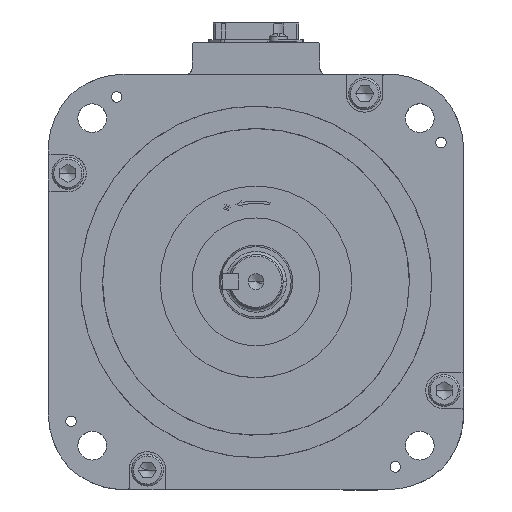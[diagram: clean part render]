
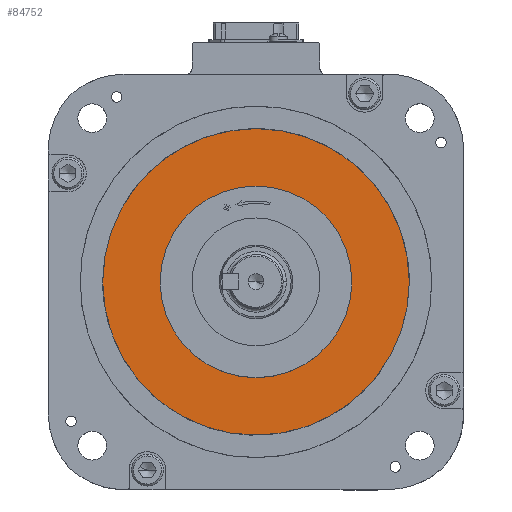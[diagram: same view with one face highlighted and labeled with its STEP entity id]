
A CAD part, top view. The second image highlights one B-rep face of the part: STEP entity #84752.
In plain terms, the highlighted planar face has unit normal (0, 0, 1).
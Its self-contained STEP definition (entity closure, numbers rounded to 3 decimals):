
#1270 = VERTEX_POINT ( 'NONE', #27144 ) ;
#1894 = ORIENTED_EDGE ( 'NONE', *, *, #48972, .F. ) ;
#2776 = CARTESIAN_POINT ( 'NONE',  ( 57.998, -93.135, 0. ) ) ;
#2932 = ORIENTED_EDGE ( 'NONE', *, *, #44338, .F. ) ;
#5570 = DIRECTION ( 'NONE',  ( 0., 0., -1. ) ) ;
#6271 = EDGE_LOOP ( 'NONE', ( #48114, #74033 ) ) ;
#6435 = CARTESIAN_POINT ( 'NONE',  ( 30., 0., 0. ) ) ;
#7323 = DIRECTION ( 'NONE',  ( 0., 0., 1. ) ) ;
#10144 = DIRECTION ( 'NONE',  ( 0., 0., -1. ) ) ;
#10203 = AXIS2_PLACEMENT_3D ( 'NONE', #26328, #18076, #19786 ) ;
#10642 = AXIS2_PLACEMENT_3D ( 'NONE', #13823, #7323, #80545 ) ;
#10657 = CIRCLE ( 'NONE', #32965, 47.999 ) ;
#13317 = CARTESIAN_POINT ( 'NONE',  ( 47.998, 0.001, 0. ) ) ;
#13823 = CARTESIAN_POINT ( 'NONE',  ( 0., 0., 0. ) ) ;
#16257 = CIRCLE ( 'NONE', #10642, 30. ) ;
#16273 = PLANE ( 'NONE',  #25262 ) ;
#17077 = AXIS2_PLACEMENT_3D ( 'NONE', #55788, #75903, #34958 ) ;
#17740 = EDGE_CURVE ( 'NONE', #1270, #28134, #36645, .T. ) ;
#18076 = DIRECTION ( 'NONE',  ( 0., 0., -1. ) ) ;
#19574 = VERTEX_POINT ( 'NONE', #6435 ) ;
#19786 = DIRECTION ( 'NONE',  ( -1., 0., 0. ) ) ;
#24757 = CARTESIAN_POINT ( 'NONE',  ( -0.001, 0.001, 0. ) ) ;
#25262 = AXIS2_PLACEMENT_3D ( 'NONE', #2776, #10144, #57180 ) ;
#26328 = CARTESIAN_POINT ( 'NONE',  ( -0.001, 0.001, 0. ) ) ;
#27144 = CARTESIAN_POINT ( 'NONE',  ( -48., 0.001, 0. ) ) ;
#28134 = VERTEX_POINT ( 'NONE', #13317 ) ;
#32965 = AXIS2_PLACEMENT_3D ( 'NONE', #24757, #5570, #85363 ) ;
#34958 = DIRECTION ( 'NONE',  ( 1., 0., 0. ) ) ;
#35902 = FACE_BOUND ( 'NONE', #57134, .T. ) ;
#36645 = CIRCLE ( 'NONE', #10203, 47.999 ) ;
#41666 = EDGE_CURVE ( 'NONE', #28134, #1270, #10657, .T. ) ;
#44338 = EDGE_CURVE ( 'NONE', #78646, #19574, #46255, .T. ) ;
#46255 = CIRCLE ( 'NONE', #17077, 30. ) ;
#48114 = ORIENTED_EDGE ( 'NONE', *, *, #17740, .F. ) ;
#48972 = EDGE_CURVE ( 'NONE', #19574, #78646, #16257, .T. ) ;
#55788 = CARTESIAN_POINT ( 'NONE',  ( 0., 0., 0. ) ) ;
#57134 = EDGE_LOOP ( 'NONE', ( #1894, #2932 ) ) ;
#57180 = DIRECTION ( 'NONE',  ( -1., 0., 0. ) ) ;
#73632 = CARTESIAN_POINT ( 'NONE',  ( -30., 0., 0. ) ) ;
#74033 = ORIENTED_EDGE ( 'NONE', *, *, #41666, .F. ) ;
#75903 = DIRECTION ( 'NONE',  ( 0., 0., 1. ) ) ;
#78646 = VERTEX_POINT ( 'NONE', #73632 ) ;
#80545 = DIRECTION ( 'NONE',  ( 1., 0., 0. ) ) ;
#83840 = FACE_OUTER_BOUND ( 'NONE', #6271, .T. ) ;
#84752 = ADVANCED_FACE ( 'NONE', ( #83840, #35902 ), #16273, .F. ) ;
#85363 = DIRECTION ( 'NONE',  ( -1., 0., 0. ) ) ;
